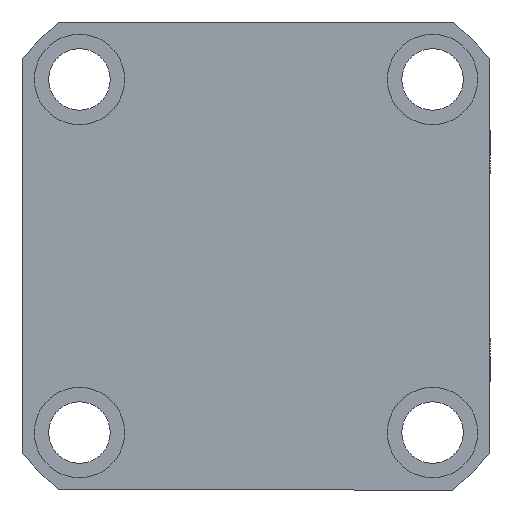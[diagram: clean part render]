
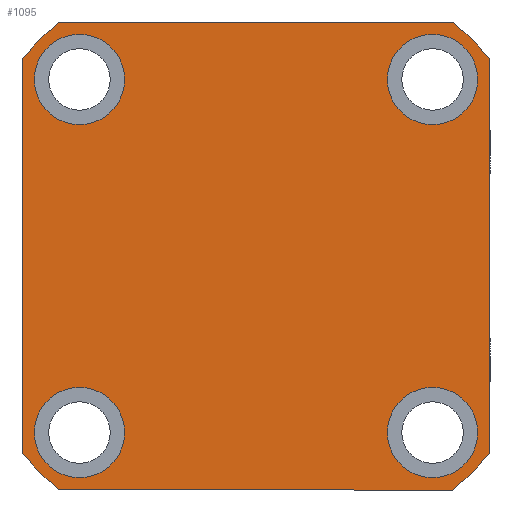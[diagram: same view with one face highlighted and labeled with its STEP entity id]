
A CAD part, front view. The second image highlights one B-rep face of the part: STEP entity #1095.
In plain terms, the highlighted planar face has unit normal (0, -1, 0) as drawn and (0, 0, -1) by its records, which use the part's own axes.
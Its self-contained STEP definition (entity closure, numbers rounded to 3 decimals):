
#12 = CARTESIAN_POINT ( 'NONE',  ( 47.971, -57., 0. ) ) ;
#26 = EDGE_CURVE ( 'NONE', #4593, #4801, #8311, .T. ) ;
#234 = EDGE_CURVE ( 'NONE', #2423, #12614, #13457, .T. ) ;
#282 = CIRCLE ( 'NONE', #7054, 11. ) ;
#305 = CIRCLE ( 'NONE', #1416, 11. ) ;
#336 = EDGE_LOOP ( 'NONE', ( #10400, #3112 ) ) ;
#370 = EDGE_CURVE ( 'NONE', #14023, #4867, #12344, .T. ) ;
#378 = FACE_BOUND ( 'NONE', #4372, .T. ) ;
#492 = DIRECTION ( 'NONE',  ( 1., 0., 0. ) ) ;
#540 = CIRCLE ( 'NONE', #10191, 11. ) ;
#720 = CARTESIAN_POINT ( 'NONE',  ( 47.971, 57., 0. ) ) ;
#739 = AXIS2_PLACEMENT_3D ( 'NONE', #7841, #803, #9021 ) ;
#754 = CARTESIAN_POINT ( 'NONE',  ( -54., -43., 0. ) ) ;
#803 = DIRECTION ( 'NONE',  ( 0., 0., 1. ) ) ;
#861 = EDGE_CURVE ( 'NONE', #8853, #1702, #1486, .T. ) ;
#902 = DIRECTION ( 'NONE',  ( 0., 0., 1. ) ) ;
#968 = VECTOR ( 'NONE', #2501, 1000. ) ;
#975 = DIRECTION ( 'NONE',  ( 0., 0., -1. ) ) ;
#1039 = VERTEX_POINT ( 'NONE', #5515 ) ;
#1050 = CIRCLE ( 'NONE', #739, 74.5 ) ;
#1065 = DIRECTION ( 'NONE',  ( -1., 0., 0. ) ) ;
#1095 = ADVANCED_FACE ( 'NONE', ( #12536, #378, #12900, #9405, #6260 ), #6704, .F. ) ;
#1225 = CARTESIAN_POINT ( 'NONE',  ( 57., -47.971, 0. ) ) ;
#1416 = AXIS2_PLACEMENT_3D ( 'NONE', #8920, #1875, #10098 ) ;
#1486 = LINE ( 'NONE', #13481, #4609 ) ;
#1652 = VERTEX_POINT ( 'NONE', #13028 ) ;
#1702 = VERTEX_POINT ( 'NONE', #7683 ) ;
#1875 = DIRECTION ( 'NONE',  ( 0., 0., -1. ) ) ;
#2082 = CARTESIAN_POINT ( 'NONE',  ( 0., 0., 0. ) ) ;
#2117 = EDGE_CURVE ( 'NONE', #2649, #3370, #11110, .T. ) ;
#2269 = CARTESIAN_POINT ( 'NONE',  ( -32., -43., 0. ) ) ;
#2423 = VERTEX_POINT ( 'NONE', #5261 ) ;
#2453 = CARTESIAN_POINT ( 'NONE',  ( -57., 57., 0. ) ) ;
#2501 = DIRECTION ( 'NONE',  ( 0., -1., 0. ) ) ;
#2649 = VERTEX_POINT ( 'NONE', #8246 ) ;
#2892 = CARTESIAN_POINT ( 'NONE',  ( 32., -43., 0. ) ) ;
#3112 = ORIENTED_EDGE ( 'NONE', *, *, #3725, .F. ) ;
#3256 = DIRECTION ( 'NONE',  ( 1., 0., 0. ) ) ;
#3370 = VERTEX_POINT ( 'NONE', #2892 ) ;
#3448 = EDGE_CURVE ( 'NONE', #7016, #1652, #305, .T. ) ;
#3515 = VERTEX_POINT ( 'NONE', #754 ) ;
#3702 = CIRCLE ( 'NONE', #13307, 74.5 ) ;
#3725 = EDGE_CURVE ( 'NONE', #1652, #7016, #14134, .T. ) ;
#3839 = ORIENTED_EDGE ( 'NONE', *, *, #861, .F. ) ;
#3859 = CARTESIAN_POINT ( 'NONE',  ( -43., -43., 0. ) ) ;
#3990 = EDGE_LOOP ( 'NONE', ( #4277, #14327 ) ) ;
#4058 = ORIENTED_EDGE ( 'NONE', *, *, #370, .F. ) ;
#4181 = CARTESIAN_POINT ( 'NONE',  ( 43., -43., 0. ) ) ;
#4251 = CIRCLE ( 'NONE', #11462, 74.5 ) ;
#4277 = ORIENTED_EDGE ( 'NONE', *, *, #5869, .F. ) ;
#4372 = EDGE_LOOP ( 'NONE', ( #4602, #14147 ) ) ;
#4557 = ORIENTED_EDGE ( 'NONE', *, *, #8268, .F. ) ;
#4593 = VERTEX_POINT ( 'NONE', #6868 ) ;
#4602 = ORIENTED_EDGE ( 'NONE', *, *, #9508, .F. ) ;
#4609 = VECTOR ( 'NONE', #5241, 1000. ) ;
#4768 = VERTEX_POINT ( 'NONE', #14124 ) ;
#4801 = VERTEX_POINT ( 'NONE', #12 ) ;
#4867 = VERTEX_POINT ( 'NONE', #11982 ) ;
#5049 = DIRECTION ( 'NONE',  ( -1., 0., 0. ) ) ;
#5102 = EDGE_LOOP ( 'NONE', ( #14436, #4058, #10687, #12220, #14724, #12943, #4557, #3839 ) ) ;
#5241 = DIRECTION ( 'NONE',  ( -1., 0., 0. ) ) ;
#5261 = CARTESIAN_POINT ( 'NONE',  ( -57., 47.971, 0. ) ) ;
#5385 = DIRECTION ( 'NONE',  ( -1., 0., 0. ) ) ;
#5515 = CARTESIAN_POINT ( 'NONE',  ( -32., 43., 0. ) ) ;
#5577 = CARTESIAN_POINT ( 'NONE',  ( 0., 0., 0. ) ) ;
#5648 = EDGE_CURVE ( 'NONE', #4801, #14023, #1050, .T. ) ;
#5687 = DIRECTION ( 'NONE',  ( 0., 0., -1. ) ) ;
#5756 = CARTESIAN_POINT ( 'NONE',  ( 43., -43., 0. ) ) ;
#5827 = DIRECTION ( 'NONE',  ( 0., 0., -1. ) ) ;
#5869 = EDGE_CURVE ( 'NONE', #3515, #14642, #282, .T. ) ;
#6260 = FACE_OUTER_BOUND ( 'NONE', #5102, .T. ) ;
#6631 = AXIS2_PLACEMENT_3D ( 'NONE', #4181, #12439, #5385 ) ;
#6704 = PLANE ( 'NONE',  #11581 ) ;
#6818 = DIRECTION ( 'NONE',  ( 0., 0., 1. ) ) ;
#6868 = CARTESIAN_POINT ( 'NONE',  ( -47.971, -57., 0. ) ) ;
#6934 = DIRECTION ( 'NONE',  ( -1., 0., 0. ) ) ;
#7016 = VERTEX_POINT ( 'NONE', #11496 ) ;
#7054 = AXIS2_PLACEMENT_3D ( 'NONE', #15164, #8097, #1065 ) ;
#7179 = CARTESIAN_POINT ( 'NONE',  ( -57., -47.971, 0. ) ) ;
#7530 = DIRECTION ( 'NONE',  ( 0., 0., 1. ) ) ;
#7683 = CARTESIAN_POINT ( 'NONE',  ( -47.971, 57., 0. ) ) ;
#7763 = EDGE_CURVE ( 'NONE', #12614, #4593, #3702, .T. ) ;
#7828 = AXIS2_PLACEMENT_3D ( 'NONE', #5756, #13995, #6934 ) ;
#7841 = CARTESIAN_POINT ( 'NONE',  ( 0., 0., 0. ) ) ;
#7934 = CIRCLE ( 'NONE', #11055, 11. ) ;
#8012 = CARTESIAN_POINT ( 'NONE',  ( -43., 43., 0. ) ) ;
#8097 = DIRECTION ( 'NONE',  ( 0., 0., -1. ) ) ;
#8246 = CARTESIAN_POINT ( 'NONE',  ( 54., -43., 0. ) ) ;
#8268 = EDGE_CURVE ( 'NONE', #1702, #2423, #4251, .T. ) ;
#8311 = LINE ( 'NONE', #11430, #11450 ) ;
#8321 = AXIS2_PLACEMENT_3D ( 'NONE', #2082, #10317, #3256 ) ;
#8515 = ORIENTED_EDGE ( 'NONE', *, *, #14531, .F. ) ;
#8617 = CARTESIAN_POINT ( 'NONE',  ( 57., 57., 0. ) ) ;
#8853 = VERTEX_POINT ( 'NONE', #720 ) ;
#8920 = CARTESIAN_POINT ( 'NONE',  ( 43., 43., 0. ) ) ;
#9021 = DIRECTION ( 'NONE',  ( 1., 0., 0. ) ) ;
#9121 = DIRECTION ( 'NONE',  ( 1., 0., 0. ) ) ;
#9183 = DIRECTION ( 'NONE',  ( -1., 0., 0. ) ) ;
#9232 = VECTOR ( 'NONE', #9362, 1000. ) ;
#9362 = DIRECTION ( 'NONE',  ( 0., 1., 0. ) ) ;
#9405 = FACE_BOUND ( 'NONE', #12675, .T. ) ;
#9508 = EDGE_CURVE ( 'NONE', #3370, #2649, #14743, .T. ) ;
#10098 = DIRECTION ( 'NONE',  ( -1., 0., 0. ) ) ;
#10191 = AXIS2_PLACEMENT_3D ( 'NONE', #3859, #12103, #5049 ) ;
#10279 = EDGE_CURVE ( 'NONE', #4768, #1039, #7934, .T. ) ;
#10317 = DIRECTION ( 'NONE',  ( 0., 0., 1. ) ) ;
#10400 = ORIENTED_EDGE ( 'NONE', *, *, #3448, .F. ) ;
#10413 = ORIENTED_EDGE ( 'NONE', *, *, #10279, .F. ) ;
#10687 = ORIENTED_EDGE ( 'NONE', *, *, #5648, .F. ) ;
#11055 = AXIS2_PLACEMENT_3D ( 'NONE', #8012, #975, #9183 ) ;
#11110 = CIRCLE ( 'NONE', #7828, 11. ) ;
#11430 = CARTESIAN_POINT ( 'NONE',  ( -57., -57., 0. ) ) ;
#11450 = VECTOR ( 'NONE', #12710, 1000. ) ;
#11462 = AXIS2_PLACEMENT_3D ( 'NONE', #13885, #6818, #15064 ) ;
#11496 = CARTESIAN_POINT ( 'NONE',  ( 32., 43., 0. ) ) ;
#11581 = AXIS2_PLACEMENT_3D ( 'NONE', #5577, #902, #9121 ) ;
#11592 = CIRCLE ( 'NONE', #14186, 11. ) ;
#11789 = CIRCLE ( 'NONE', #8321, 74.5 ) ;
#11915 = EDGE_CURVE ( 'NONE', #14642, #3515, #540, .T. ) ;
#11982 = CARTESIAN_POINT ( 'NONE',  ( 57., 47.971, 0. ) ) ;
#12103 = DIRECTION ( 'NONE',  ( 0., 0., -1. ) ) ;
#12220 = ORIENTED_EDGE ( 'NONE', *, *, #26, .F. ) ;
#12335 = EDGE_CURVE ( 'NONE', #4867, #8853, #11789, .T. ) ;
#12344 = LINE ( 'NONE', #8617, #9232 ) ;
#12439 = DIRECTION ( 'NONE',  ( 0., 0., -1. ) ) ;
#12455 = AXIS2_PLACEMENT_3D ( 'NONE', #12857, #5827, #14067 ) ;
#12536 = FACE_BOUND ( 'NONE', #3990, .T. ) ;
#12614 = VERTEX_POINT ( 'NONE', #7179 ) ;
#12675 = EDGE_LOOP ( 'NONE', ( #10413, #8515 ) ) ;
#12710 = DIRECTION ( 'NONE',  ( 1., 0., 0. ) ) ;
#12724 = CARTESIAN_POINT ( 'NONE',  ( -43., 43., 0. ) ) ;
#12857 = CARTESIAN_POINT ( 'NONE',  ( 43., 43., 0. ) ) ;
#12900 = FACE_BOUND ( 'NONE', #336, .T. ) ;
#12943 = ORIENTED_EDGE ( 'NONE', *, *, #234, .F. ) ;
#13028 = CARTESIAN_POINT ( 'NONE',  ( 54., 43., 0. ) ) ;
#13307 = AXIS2_PLACEMENT_3D ( 'NONE', #14594, #7530, #492 ) ;
#13457 = LINE ( 'NONE', #2453, #968 ) ;
#13481 = CARTESIAN_POINT ( 'NONE',  ( -57., 57., 0. ) ) ;
#13885 = CARTESIAN_POINT ( 'NONE',  ( 0., 0., 0. ) ) ;
#13934 = DIRECTION ( 'NONE',  ( -1., 0., 0. ) ) ;
#13995 = DIRECTION ( 'NONE',  ( 0., 0., -1. ) ) ;
#14023 = VERTEX_POINT ( 'NONE', #1225 ) ;
#14067 = DIRECTION ( 'NONE',  ( -1., 0., 0. ) ) ;
#14124 = CARTESIAN_POINT ( 'NONE',  ( -54., 43., 0. ) ) ;
#14134 = CIRCLE ( 'NONE', #12455, 11. ) ;
#14147 = ORIENTED_EDGE ( 'NONE', *, *, #2117, .F. ) ;
#14186 = AXIS2_PLACEMENT_3D ( 'NONE', #12724, #5687, #13934 ) ;
#14327 = ORIENTED_EDGE ( 'NONE', *, *, #11915, .F. ) ;
#14436 = ORIENTED_EDGE ( 'NONE', *, *, #12335, .F. ) ;
#14531 = EDGE_CURVE ( 'NONE', #1039, #4768, #11592, .T. ) ;
#14594 = CARTESIAN_POINT ( 'NONE',  ( 0., 0., 0. ) ) ;
#14642 = VERTEX_POINT ( 'NONE', #2269 ) ;
#14724 = ORIENTED_EDGE ( 'NONE', *, *, #7763, .F. ) ;
#14743 = CIRCLE ( 'NONE', #6631, 11. ) ;
#15064 = DIRECTION ( 'NONE',  ( 1., 0., 0. ) ) ;
#15164 = CARTESIAN_POINT ( 'NONE',  ( -43., -43., 0. ) ) ;
